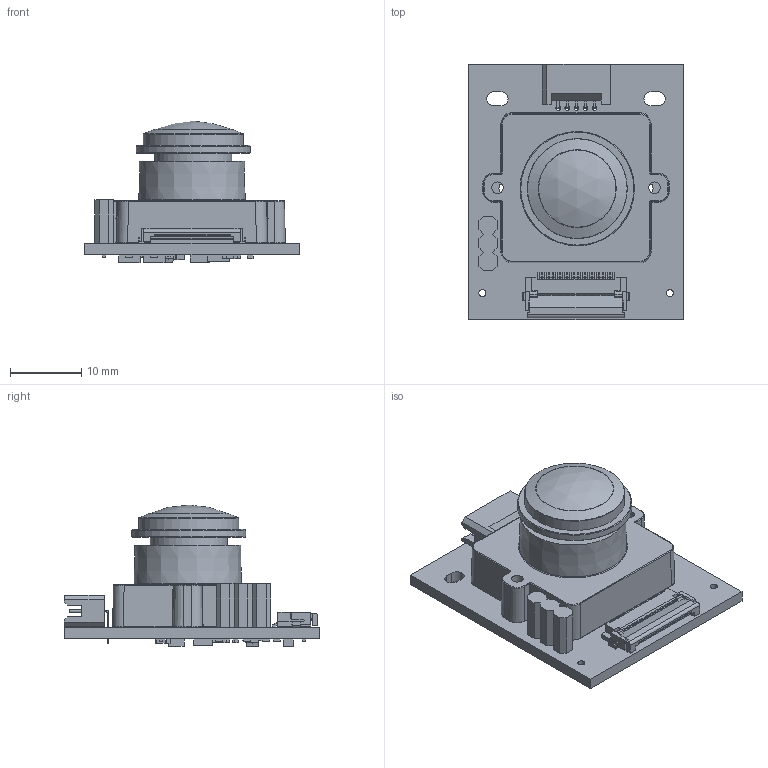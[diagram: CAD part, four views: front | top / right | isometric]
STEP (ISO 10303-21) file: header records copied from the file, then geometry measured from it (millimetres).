
FILE_DESCRIPTION(/* description */ (''),/* implementation_level */ '2;1');
FILE_NAME(/* name */ 'PCB4189D.step',/* time_stamp */ '2024-06-25T11:18:19+02:00',/* author */ (''),/* organization */ (''),/* preprocessor_version */ 'ST-DEVELOPER v19.2',/* originating_system */ 'Autodesk Translation Framework v12.6.0.85',/* authorisation */ '');
FILE_SCHEMA (('AUTOMOTIVE_DESIGN { 1 0 10303 214 3 1 1 }'));
Length unit declared in the file: millimetre
Products named in the file (48): PCB4189D; PCB4189D_1; Open CASCADE STEP translator 7.5 49; Open CASCADE STEP translator 7.5 50; Open CASCADE STEP translator 7.5 51; Open CASCADE STEP translator 7.5 52; Open CASCADE STEP translator 7.5 53; Open CASCADE STEP translator 7.5 54; Open CASCADE STEP translator 7.5 55; Open CASCADE STEP translator 7.5 56; Open CASCADE STEP translator 7.5 57; Open CASCADE STEP translator 7.5 58; Open CASCADE STEP translator 7.5 59; Open CASCADE STEP translator 7.5 60; Open CASCADE STEP translator 7.5 61; Open CASCADE STEP translator 7.5 62; Open CASCADE STEP translator 7.5 63; Open CASCADE STEP translator 7.5 64; Open CASCADE STEP translator 7.5 65; Open CASCADE STEP translator 7.5 66; Open CASCADE STEP translator 7.5 67; Open CASCADE STEP translator 7.5 68; Open CASCADE STEP translator 7.5 69; Open CASCADE STEP translator 7.5 70; Open CASCADE STEP translator 7.5 71; Open CASCADE STEP translator 7.5 72; Open CASCADE STEP translator 7.5 73; Open CASCADE STEP translator 7.5 74; Open CASCADE STEP translator 7.5 75; Open CASCADE STEP translator 7.5 76; Open CASCADE STEP translator 7.5 77; Open CASCADE STEP translator 7.5 78; Open CASCADE STEP translator 7.5 79; Open CASCADE STEP translator 7.5 80; Open CASCADE STEP translator 7.5 81; Open CASCADE STEP translator 7.5 82; Open CASCADE STEP translator 7.5 83; Open CASCADE STEP translator 7.5 84; Open CASCADE STEP translator 7.5 85; Open CASCADE STEP translator 7.5 86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
Assembly tree (47 placements, depth 3):
  PCB4189D
    PCB4189D_1
      Open CASCADE STEP translator 7.5 49
      Open CASCADE STEP translator 7.5 50
      Open CASCADE STEP translator 7.5 51
      Open CASCADE STEP translator 7.5 52
      Open CASCADE STEP translator 7.5 53
      Open CASCADE STEP translator 7.5 54
      Open CASCADE STEP translator 7.5 55
      Open CASCADE STEP translator 7.5 56
      Open CASCADE STEP translator 7.5 57
      Open CASCADE STEP translator 7.5 58
      Open CASCADE STEP translator 7.5 59
      Open CASCADE STEP translator 7.5 60
      Open CASCADE STEP translator 7.5 61
      Open CASCADE STEP translator 7.5 62
      Open CASCADE STEP translator 7.5 63
      Open CASCADE STEP translator 7.5 64
      Open CASCADE STEP translator 7.5 65
      Open CASCADE STEP translator 7.5 66
      Open CASCADE STEP translator 7.5 67
      Open CASCADE STEP translator 7.5 68
      Open CASCADE STEP translator 7.5 69
      Open CASCADE STEP translator 7.5 70
      Open CASCADE STEP translator 7.5 71
      Open CASCADE STEP translator 7.5 72
      Open CASCADE STEP translator 7.5 73
      Open CASCADE STEP translator 7.5 74
      Open CASCADE STEP translator 7.5 75
      Open CASCADE STEP translator 7.5 76
      Open CASCADE STEP translator 7.5 77
      Open CASCADE STEP translator 7.5 78
      Open CASCADE STEP translator 7.5 79
      Open CASCADE STEP translator 7.5 80
      Open CASCADE STEP translator 7.5 81
      Open CASCADE STEP translator 7.5 82
      Open CASCADE STEP translator 7.5 83
      Open CASCADE STEP translator 7.5 84
      Open CASCADE STEP translator 7.5 85
      Open CASCADE STEP translator 7.5 86
      Open CASCADE STEP translator 7.5 87
      Open CASCADE STEP translator 7.5 88
      Open CASCADE STEP translator 7.5 89
      Open CASCADE STEP translator 7.5 90
      Open CASCADE STEP translator 7.5 91
      Open CASCADE STEP translator 7.5 92
      Open CASCADE STEP translator 7.5 93
      Open CASCADE STEP translator 7.5 94
Bounding box: 30 x 35.7 x 19.84 mm (x, y, z)
Volume: 5784.7 mm3; surface area: 7949.8 mm2
Topology: 60 solids, 60 shells, 1571 faces, 4127 edges, 2680 vertices
Faces by surface type: plane 1252, cylinder 251, bspline 42, cone 12, torus 9, sphere 5
Full cylindrical faces by diameter (mm): 0.457 x5, 0.65 x5, 1 x5, 1.6 x2, 1.75 x2, 6.75 x1, 10 x1, 10.806 x2, 11.4 x13, 12.009 x1, 13.996 x1, 16 x1
Entity records: 53270 total; most frequent: CARTESIAN_POINT 12553, ORIENTED_EDGE 8246, DIRECTION 7904, EDGE_CURVE 4123, LINE 3490, VECTOR 3490, VERTEX_POINT 2680, AXIS2_PLACEMENT_3D 2207
